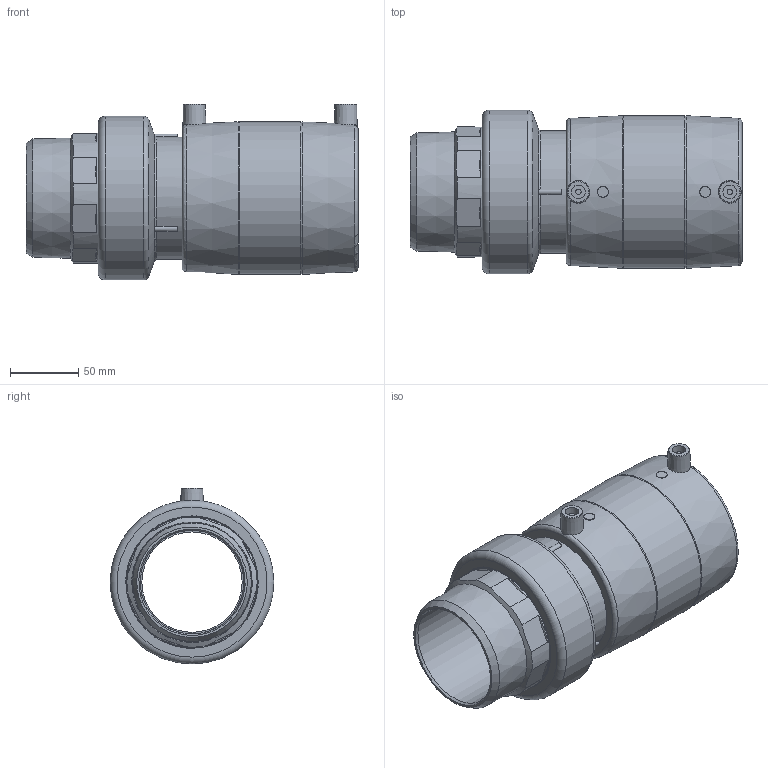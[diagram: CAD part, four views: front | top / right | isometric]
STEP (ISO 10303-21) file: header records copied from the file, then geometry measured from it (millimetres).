
FILE_DESCRIPTION(/* description */ ('Unknown'),/* implementation_level */ '2;1');
FILE_NAME(/* name */ 'MTMP090C',/* time_stamp */ '2021-03-02T10:12:41+01:00',/* author */ ('Unknown'),/* organization */ ('Unknown'),/* preprocessor_version */ 'ST-DEVELOPER v16.7',/* originating_system */ 'Solid Edge',/* authorisation */ 'Unknown');
FILE_SCHEMA (('AUTOMOTIVE_DESIGN {1 0 10303 214 3 1 1}'));
Length unit declared in the file: millimetre
Products named in the file (5): MTMP090C; MP090C; RTOMP090C; Parte PE 090; IOM090C
Assembly tree (4 placements, depth 3):
  MTMP090C
    MP090C
    RTOMP090C
      Parte PE 090
      IOM090C
Bounding box: 243.5 x 120 x 129 mm (x, y, z)
Volume: 968860.2 mm3; surface area: 238180 mm2
Topology: 3 solids, 3 shells, 439 faces, 1239 edges, 810 vertices
Faces by surface type: cylinder 197, cone 94, plane 94, torus 25, bspline 15, sphere 14
Full cylindrical faces by diameter (mm): 4 x2, 8 x2, 10 x2, 73.6 x1, 76 x2, 79.5 x2, 84.3 x2, 84.5 x2, 90 x2, 95.5 x1, 98 x2, 104 x4, 112 x1, 120 x1
Entity records: 16393 total; most frequent: CARTESIAN_POINT 5042, ORIENTED_EDGE 2246, DIRECTION 1828, EDGE_CURVE 1123, AXIS2_PLACEMENT_3D 888, VERTEX_POINT 765, B_SPLINE_CURVE_WITH_KNOTS 612, EDGE_LOOP 520
